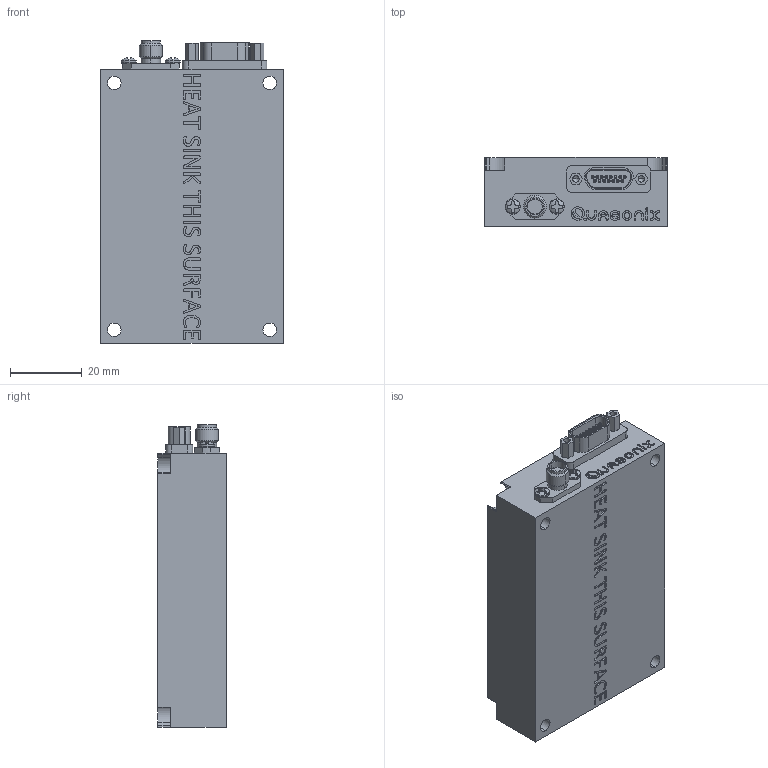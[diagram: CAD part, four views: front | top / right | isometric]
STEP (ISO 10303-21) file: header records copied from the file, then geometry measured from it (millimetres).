
FILE_DESCRIPTION (( 'STEP AP203' ), '1' );
FILE_NAME ('QS-TX-04APXXX.STEP', '2024-03-28T18:23:56', ( '' ), ( '' ), 'SwSTEP 2.0', 'SolidWorks 2021', '' );
FILE_SCHEMA (( 'CONFIG_CONTROL_DESIGN' ));
Length unit declared in the file: inch
Products named in the file (1): QS-TX-04APXXX
Bounding box: 50.8 x 19.05 x 84.14 mm (x, y, z)
Volume: 73342.6 mm3; surface area: 15173.3 mm2
Topology: 7 solids, 7 shells, 790 faces, 2024 edges, 1325 vertices
Faces by surface type: plane 319, bspline 249, cylinder 157, cone 49, torus 12, sphere 4
Entity records: 32831 total; most frequent: CARTESIAN_POINT 14976, ORIENTED_EDGE 4040, DIRECTION 2980, EDGE_CURVE 2020, VERTEX_POINT 1325, LINE 1094, VECTOR 1094, AXIS2_PLACEMENT_3D 943
